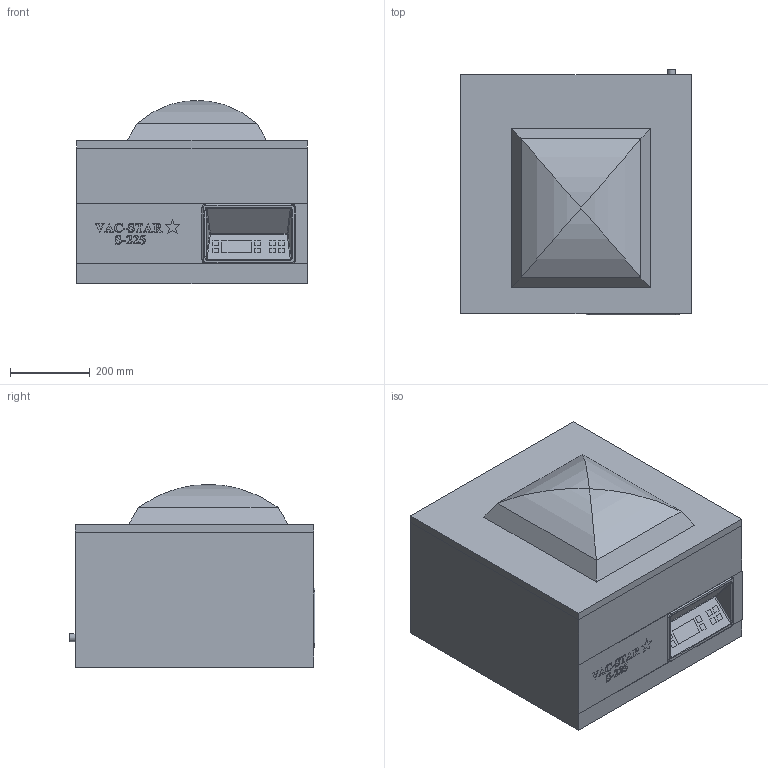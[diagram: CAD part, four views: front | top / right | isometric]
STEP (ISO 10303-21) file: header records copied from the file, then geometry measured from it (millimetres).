
FILE_DESCRIPTION(/* description */ ('Unknown'),/* implementation_level */ '2;1');
FILE_NAME(/* name */ 'C3D-S225-AA',/* time_stamp */ '2021-10-22T10:34:32+02:00',/* author */ ('Unknown'),/* organization */ ('Unknown'),/* preprocessor_version */ 'ST-DEVELOPER v16.7',/* originating_system */ 'Solid Edge',/* authorisation */ 'Unknown');
FILE_SCHEMA (('AUTOMOTIVE_DESIGN {1 0 10303 214 3 1 1}'));
Length unit declared in the file: millimetre
Products named in the file (1): R-VAC-STAR-S225
Bounding box: 580 x 618.01 x 460 mm (x, y, z)
Volume: 99957614.3 mm3; surface area: 2558723.2 mm2
Topology: 2 solids, 2 shells, 259 faces, 650 edges, 424 vertices
Faces by surface type: plane 193, bspline 38, cylinder 22, torus 4, sphere 2
Full cylindrical faces by diameter (mm): 20 x1
Entity records: 12932 total; most frequent: CARTESIAN_POINT 5458, ORIENTED_EDGE 1294, DIRECTION 964, EDGE_CURVE 647, LINE 432, VECTOR 432, VERTEX_POINT 424, EDGE_LOOP 291
